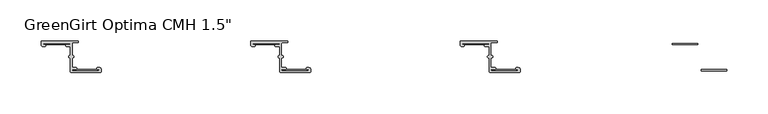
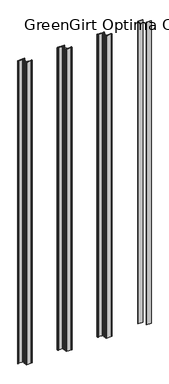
"""IFC4 building model written with IfcOpenShell, lengths in millimetres: fastener geometry."""

from ifc_helpers import new_model, si_unit, frame, origin, origin_with_axes, place, context, project, spatial, polyline, circle_curve, outline, extrude, source, transform, mapped, element, save
from ifc_brep_helpers import plane_surface, cylinder_surface, revolved_surface, advanced_brep


def fastener_aac90bd3(model_context):
    return source(origin(), model_context, "Body", "SolidModel", [
        extrude(outline(polyline([(1101.09, -2.794), (1101.09, -4.5212), (1070.102, -4.5212), (1070.102, -2.794), (1101.09, -2.794)])), origin_with_axes(), (0.0, 0.0, 1.0), 2032.0),
        extrude(outline(polyline([(1136.269, -34.4677766), (1136.269, -36.1949766), (1105.281, -36.1949766), (1105.281, -34.4677766), (1136.269, -34.4677766)])), origin_with_axes(), (0.0, 0.0, 1.0), 2032.0),
        advanced_brep(
        [(816.102, -2.794, 2032.0), (847.471, -2.794, 2032.0), (847.471, -4.5212, 2032.0), (843.28, -4.5212, 2032.0), (843.28, -6.5532, 2032.0), (847.471, -6.5532, 2032.0), (848.233, -7.3152, 2032.0), (848.233, -17.7601563, 2032.0), (847.3845567, -17.7601563, 2032.0), (847.3845567, -20.4288947, 2032.0), (848.233, -20.4288947, 2032.0), (848.233, -37.3379766, 2032.0), (848.995, -38.0999766, 2032.0), (884.8513242, -38.1, 2032.0), (885.571, -37.3379766, 2032.0), (885.571, -34.4677766, 2032.0), (883.539, -32.4357766, 2032.0), (881.253, -32.4357766, 2032.0), (881.253, -34.4677766, 2032.0), (882.269, -34.4677766, 2032.0), (882.269, -36.1949766, 2032.0), (850.9, -36.1949766, 2032.0), (850.9, -34.4677766, 2032.0), (855.091, -34.4677766, 2032.0), (855.091, -32.4357766, 2032.0), (850.9, -32.4357766, 2032.0), (850.138, -31.6737766, 2032.0), (850.138, -20.4279799, 2032.0), (850.9869007, -20.4279799, 2032.0), (850.9869007, -17.7601563, 2032.0), (850.138, -17.7601563, 2032.0), (850.138, -2.667, 2032.0), (850.9, -1.905, 2032.0), (856.996, -1.905, 2032.0), (856.996, 0.0, 2032.0), (813.562, 0.0, 2032.0), (812.8, -0.762, 2032.0), (812.8, -4.5212, 2032.0), (814.832, -6.5532, 2032.0), (817.118, -6.5532, 2032.0), (817.118, -4.5212, 2032.0), (816.102, -4.5212, 2032.0), (816.102, -2.794, 0.0), (816.102, -4.5212, 0.0), (817.118, -4.5212, 0.0), (817.118, -6.5532, 0.0), (814.832, -6.5532, 0.0), (812.8, -4.5212, 0.0), (812.8, -0.762, 0.0), (813.562, 0.0, 0.0), (856.996, 0.0, 0.0), (856.996, -1.905, 0.0), (850.9, -1.905, 0.0), (850.138, -2.667, 0.0), (850.138, -17.7601563, 0.0), (850.9869007, -17.7601563, 0.0), (850.9869007, -20.4279799, 0.0), (850.138, -20.4279799, 0.0), (850.138, -31.6737766, 0.0), (850.9, -32.4357766, 0.0), (855.091, -32.4357766, 0.0), (855.091, -34.4677766, 0.0), (850.9, -34.4677766, 0.0), (850.9, -36.1949766, 0.0), (882.269, -36.1949766, 0.0), (882.269, -34.4677766, 0.0), (881.253, -34.4677766, 0.0), (881.253, -32.4357766, 0.0), (883.539, -32.4357766, 0.0), (885.571, -34.4677766, 0.0), (885.571, -37.3379766, 0.0), (884.809, -38.0999766, 0.0), (848.9676774, -38.1, 0.0), (848.233, -37.3379766, 0.0), (848.233, -20.4288947, 0.0), (847.3845567, -20.4288947, 0.0), (847.3845567, -17.7601563, 0.0), (848.233, -17.7601563, 0.0), (848.233, -7.3152, 0.0), (847.471, -6.5532, 0.0), (843.28, -6.5532, 0.0), (843.28, -4.5212, 0.0), (847.471, -4.5212, 0.0), (847.471, -2.794, 0.0)],
        [
            (0, 1),
            (1, 2, circle_curve(frame((847.471, -3.6576, 2032.0), z_axis=(0.0, 0.0, -1.0), x_axis=(1.0, 0.0, 0.0)), 0.8636)),
            (2, 3),
            (3, 4, circle_curve(frame((843.28, -5.5372, 2032.0), z_axis=(0.0, 0.0, 1.0), x_axis=(1.0, 0.0, 0.0)), 1.016)),
            (4, 5),
            (5, 6, circle_curve(frame((847.471, -7.3152, 2032.0), z_axis=(0.0, 0.0, -1.0), x_axis=(1.0, 0.0, 0.0)), 0.762)),
            (6, 7),
            (7, 8),
            (8, 9, circle_curve(frame((847.3845567, -19.0945255, 2032.0), z_axis=(0.0, 0.0, 1.0), x_axis=(1.0, 0.0, 0.0)), 1.3343692)),
            (9, 10),
            (10, 11),
            (11, 12, circle_curve(frame((848.995, -37.3379766, 2032.0), z_axis=(0.0, 0.0, 1.0), x_axis=(1.0, 0.0, 0.0)), 0.762)),
            (12, 13),
            (13, 14, circle_curve(frame((884.809, -37.3379766, 2032.0), z_axis=(0.0, 0.0, 1.0), x_axis=(1.0, 0.0, 0.0)), 0.762)),
            (14, 15),
            (15, 16, circle_curve(frame((883.539, -34.4677766, 2032.0), z_axis=(0.0, 0.0, 1.0), x_axis=(1.0, 0.0, 0.0)), 2.032)),
            (16, 17),
            (17, 18, circle_curve(frame((881.253, -33.4517766, 2032.0), z_axis=(0.0, 0.0, 1.0), x_axis=(1.0, 0.0, 0.0)), 1.016)),
            (18, 19),
            (19, 20, circle_curve(frame((882.269, -35.3313766, 2032.0), z_axis=(0.0, 0.0, -1.0), x_axis=(1.0, 0.0, 0.0)), 0.8636)),
            (20, 21),
            (21, 22, circle_curve(frame((850.9, -35.3313766, 2032.0), z_axis=(0.0, 0.0, -1.0), x_axis=(1.0, 0.0, 0.0)), 0.8636)),
            (22, 23),
            (23, 24, circle_curve(frame((855.091, -33.4517766, 2032.0), z_axis=(0.0, 0.0, 1.0), x_axis=(1.0, 0.0, 0.0)), 1.016)),
            (24, 25),
            (25, 26, circle_curve(frame((850.9, -31.6737766, 2032.0), z_axis=(0.0, 0.0, -1.0), x_axis=(1.0, 0.0, 0.0)), 0.762)),
            (26, 27),
            (27, 28),
            (28, 29, circle_curve(frame((850.9869007, -19.0940681, 2032.0), z_axis=(0.0, 0.0, 1.0), x_axis=(1.0, 0.0, 0.0)), 1.3339118)),
            (29, 30),
            (30, 31),
            (31, 32, circle_curve(frame((850.9, -2.667, 2032.0), z_axis=(0.0, 0.0, -1.0), x_axis=(1.0, 0.0, 0.0)), 0.762)),
            (32, 33),
            (33, 34, circle_curve(frame((856.996, -0.9525, 2032.0), z_axis=(0.0, 0.0, 1.0), x_axis=(1.0, 0.0, 0.0)), 0.9525)),
            (34, 35),
            (35, 36, circle_curve(frame((813.562, -0.762, 2032.0), z_axis=(0.0, 0.0, 1.0), x_axis=(1.0, 0.0, 0.0)), 0.762)),
            (36, 37),
            (37, 38, circle_curve(frame((814.832, -4.5212, 2032.0), z_axis=(0.0, 0.0, 1.0), x_axis=(1.0, 0.0, 0.0)), 2.032)),
            (38, 39),
            (39, 40, circle_curve(frame((817.118, -5.5372, 2032.0), z_axis=(0.0, 0.0, 1.0), x_axis=(1.0, 0.0, 0.0)), 1.016)),
            (40, 41),
            (41, 0, circle_curve(frame((816.102, -3.6576, 2032.0), z_axis=(0.0, 0.0, -1.0), x_axis=(1.0, 0.0, 0.0)), 0.8636)),
            (42, 43, circle_curve(frame((816.102, -3.6576, 0.0), z_axis=(0.0, 0.0, 1.0), x_axis=(1.0, 0.0, 0.0)), 0.8636)),
            (43, 44),
            (44, 45, circle_curve(frame((817.118, -5.5372, 0.0), z_axis=(0.0, 0.0, -1.0), x_axis=(1.0, 0.0, 0.0)), 1.016)),
            (45, 46),
            (46, 47, circle_curve(frame((814.832, -4.5212, 0.0), z_axis=(0.0, 0.0, -1.0), x_axis=(1.0, 0.0, 0.0)), 2.032)),
            (47, 48),
            (48, 49, circle_curve(frame((813.562, -0.762, 0.0), z_axis=(0.0, 0.0, -1.0), x_axis=(1.0, 0.0, 0.0)), 0.762)),
            (49, 50),
            (50, 51, circle_curve(frame((856.996, -0.9525, 0.0), z_axis=(0.0, 0.0, -1.0), x_axis=(1.0, 0.0, 0.0)), 0.9525)),
            (51, 52),
            (52, 53, circle_curve(frame((850.9, -2.667, 0.0), z_axis=(0.0, 0.0, 1.0), x_axis=(1.0, 0.0, 0.0)), 0.762)),
            (53, 54),
            (54, 55),
            (55, 56, circle_curve(frame((850.9869007, -19.0940681, 0.0), z_axis=(0.0, 0.0, -1.0), x_axis=(1.0, 0.0, 0.0)), 1.3339118)),
            (56, 57),
            (57, 58),
            (58, 59, circle_curve(frame((850.9, -31.6737766, 0.0), z_axis=(0.0, 0.0, 1.0), x_axis=(1.0, 0.0, 0.0)), 0.762)),
            (59, 60),
            (60, 61, circle_curve(frame((855.091, -33.4517766, 0.0), z_axis=(0.0, 0.0, -1.0), x_axis=(1.0, 0.0, 0.0)), 1.016)),
            (61, 62),
            (62, 63, circle_curve(frame((850.9, -35.3313766, 0.0), z_axis=(0.0, 0.0, 1.0), x_axis=(1.0, 0.0, 0.0)), 0.8636)),
            (63, 64),
            (64, 65, circle_curve(frame((882.269, -35.3313766, 0.0), z_axis=(0.0, 0.0, 1.0), x_axis=(1.0, 0.0, 0.0)), 0.8636)),
            (65, 66),
            (66, 67, circle_curve(frame((881.253, -33.4517766, 0.0), z_axis=(0.0, 0.0, -1.0), x_axis=(1.0, 0.0, 0.0)), 1.016)),
            (67, 68),
            (68, 69, circle_curve(frame((883.539, -34.4677766, 0.0), z_axis=(0.0, 0.0, -1.0), x_axis=(1.0, 0.0, 0.0)), 2.032)),
            (69, 70),
            (70, 71, circle_curve(frame((884.809, -37.3379766, 0.0), z_axis=(0.0, 0.0, -1.0), x_axis=(1.0, 0.0, 0.0)), 0.762)),
            (71, 72),
            (72, 73, circle_curve(frame((848.995, -37.3379766, 0.0), z_axis=(0.0, 0.0, -1.0), x_axis=(1.0, 0.0, 0.0)), 0.762)),
            (73, 74),
            (74, 75),
            (75, 76, circle_curve(frame((847.3845567, -19.0945255, 0.0), z_axis=(0.0, 0.0, -1.0), x_axis=(1.0, 0.0, 0.0)), 1.3343692)),
            (76, 77),
            (77, 78),
            (78, 79, circle_curve(frame((847.471, -7.3152, 0.0), z_axis=(0.0, 0.0, 1.0), x_axis=(1.0, 0.0, 0.0)), 0.762)),
            (79, 80),
            (80, 81, circle_curve(frame((843.28, -5.5372, 0.0), z_axis=(0.0, 0.0, -1.0), x_axis=(1.0, 0.0, 0.0)), 1.016)),
            (81, 82),
            (82, 83, circle_curve(frame((847.471, -3.6576, 0.0), z_axis=(0.0, 0.0, 1.0), x_axis=(1.0, 0.0, 0.0)), 0.8636)),
            (83, 42),
            (0, 42),
            (83, 1),
            (82, 2),
            (81, 3),
            (80, 4),
            (79, 5),
            (78, 6),
            (77, 7),
            (76, 8),
            (75, 9),
            (74, 10),
            (73, 11),
            (72, 12),
            (71, 13),
            (70, 14),
            (69, 15),
            (68, 16),
            (67, 17),
            (66, 18),
            (65, 19),
            (64, 20),
            (63, 21),
            (62, 22),
            (61, 23),
            (60, 24),
            (59, 25),
            (58, 26),
            (57, 27),
            (56, 28),
            (55, 29),
            (54, 30),
            (53, 31),
            (52, 32),
            (51, 33),
            (50, 34),
            (49, 35),
            (48, 36),
            (47, 37),
            (46, 38),
            (45, 39),
            (44, 40),
            (43, 41),
        ],
        [
            plane_surface(frame((847.471, -2.794, 2032.0), z_axis=(0.0, 0.0, 1.0), x_axis=(1.0, 0.0, 0.0))),
            plane_surface(frame((847.471, -2.794, 0.0), z_axis=(0.0, 0.0, -1.0), x_axis=(-1.0, 0.0, 0.0))),
            plane_surface(frame((816.102, -2.794, 2032.0), z_axis=(0.0, -1.0, 0.0), x_axis=(0.0, 0.0, -1.0))),
            revolved_surface(polyline([(848.3346, -3.6576, 0.0), (848.3346, -3.6576, 2032.0)]), (847.471, -3.6576, 0.0), (0.0, 0.0, -1.0)),
            plane_surface(frame((847.471, -4.5212, 2032.0), z_axis=(0.0, 1.0, 0.0), x_axis=(0.0, 0.0, -1.0))),
            cylinder_surface(frame((843.28, -5.5372, 0.0), z_axis=(0.0, 0.0, 1.0), x_axis=(1.0, 0.0, 0.0)), 1.016),
            plane_surface(frame((843.28, -6.5532, 2032.0), z_axis=(0.0, -1.0, 0.0), x_axis=(0.0, 0.0, -1.0))),
            revolved_surface(polyline([(848.233, -7.3152, 0.0), (848.233, -7.3152, 2032.0)]), (847.471, -7.3152, 0.0), (0.0, 0.0, -1.0)),
            plane_surface(frame((848.233, -7.3152, 2032.0), z_axis=(-1.0, 0.0, 0.0), x_axis=(0.0, 0.0, -1.0))),
            plane_surface(frame((848.233, -17.7601563, 2032.0), z_axis=(0.0, 1.0, 0.0), x_axis=(0.0, 0.0, -1.0))),
            cylinder_surface(frame((847.3845567, -19.0945255, 0.0), z_axis=(0.0, 0.0, 1.0), x_axis=(1.0, 0.0, 0.0)), 1.3343692),
            plane_surface(frame((847.3845567, -20.4288947, 2032.0), z_axis=(0.0, -1.0, 0.0), x_axis=(0.0, 0.0, -1.0))),
            plane_surface(frame((848.233, -20.4288947, 2032.0), z_axis=(-1.0, 0.0, 0.0), x_axis=(0.0, 0.0, -1.0))),
            cylinder_surface(frame((848.995, -37.3379766, 0.0), z_axis=(0.0, 0.0, 1.0), x_axis=(1.0, 0.0, 0.0)), 0.762),
            plane_surface(frame((848.9676774, -38.1, 2032.0), z_axis=(0.0, -1.0, 0.0), x_axis=(0.0, 0.0, -1.0))),
            cylinder_surface(frame((884.809, -37.3379766, 0.0), z_axis=(0.0, 0.0, 1.0), x_axis=(1.0, 0.0, 0.0)), 0.762),
            plane_surface(frame((885.571, -37.3379766, 2032.0), z_axis=(1.0, 1.3794275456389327e-12, 0.0), x_axis=(0.0, 0.0, -1.0))),
            cylinder_surface(frame((883.539, -34.4677766, 0.0), z_axis=(0.0, 0.0, 1.0), x_axis=(1.0, 0.0, 0.0)), 2.032),
            plane_surface(frame((883.539, -32.4357766, 2032.0), z_axis=(0.0, 1.0, 0.0), x_axis=(0.0, 0.0, -1.0))),
            cylinder_surface(frame((881.253, -33.4517766, 0.0), z_axis=(0.0, 0.0, 1.0), x_axis=(1.0, 0.0, 0.0)), 1.016),
            plane_surface(frame((881.253, -34.4677766, 2032.0), z_axis=(0.0, -1.0, 0.0), x_axis=(0.0, 0.0, -1.0))),
            revolved_surface(polyline([(883.1326, -35.3313766, 0.0), (883.1326, -35.3313766, 2032.0)]), (882.269, -35.3313766, 0.0), (0.0, 0.0, -1.0)),
            plane_surface(frame((882.269, -36.1949766, 2032.0), z_axis=(0.0, 1.0, 0.0), x_axis=(0.0, 0.0, -1.0))),
            revolved_surface(polyline([(851.7636, -35.3313766, 0.0), (851.7636, -35.3313766, 2032.0)]), (850.9, -35.3313766, 0.0), (0.0, 0.0, -1.0)),
            plane_surface(frame((850.9, -34.4677766, 2032.0), z_axis=(0.0, -1.0, 0.0), x_axis=(0.0, 0.0, -1.0))),
            cylinder_surface(frame((855.091, -33.4517766, 0.0), z_axis=(0.0, 0.0, 1.0), x_axis=(1.0, 0.0, 0.0)), 1.016),
            plane_surface(frame((855.091, -32.4357766, 2032.0), z_axis=(0.0, 1.0, 0.0), x_axis=(0.0, 0.0, -1.0))),
            revolved_surface(polyline([(851.6619999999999, -31.6737766, 0.0), (851.6619999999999, -31.6737766, 2032.0)]), (850.9, -31.6737766, 0.0), (0.0, 0.0, -1.0)),
            plane_surface(frame((850.138, -31.6737766, 2032.0), z_axis=(1.0, 0.0, 0.0), x_axis=(0.0, 0.0, -1.0))),
            plane_surface(frame((850.138, -20.4279799, 2032.0), z_axis=(0.0, -1.0, 0.0), x_axis=(0.0, 0.0, -1.0))),
            cylinder_surface(frame((850.9869007, -19.0940681, 0.0), z_axis=(0.0, 0.0, 1.0), x_axis=(1.0, 0.0, 0.0)), 1.3339118),
            plane_surface(frame((850.9869007, -17.7601563, 2032.0), z_axis=(0.0, 1.0, 0.0), x_axis=(0.0, 0.0, -1.0))),
            plane_surface(frame((850.138, -17.7601563, 2032.0), z_axis=(1.0, 0.0, 0.0), x_axis=(0.0, 0.0, -1.0))),
            revolved_surface(polyline([(851.6619999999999, -2.667, 0.0), (851.6619999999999, -2.667, 2032.0)]), (850.9, -2.667, 0.0), (0.0, 0.0, -1.0)),
            plane_surface(frame((850.9, -1.905, 2032.0), z_axis=(0.0, -1.0, 0.0), x_axis=(0.0, 0.0, -1.0))),
            cylinder_surface(frame((856.996, -0.9525, 0.0), z_axis=(0.0, 0.0, 1.0), x_axis=(1.0, 0.0, 0.0)), 0.9525),
            plane_surface(frame((856.996, 0.0, 2032.0), z_axis=(0.0, 1.0, 0.0), x_axis=(0.0, 0.0, -1.0))),
            cylinder_surface(frame((813.562, -0.762, 0.0), z_axis=(0.0, 0.0, 1.0), x_axis=(1.0, 0.0, 0.0)), 0.762),
            plane_surface(frame((812.8, -0.762, 2032.0), z_axis=(-1.0, 2.681638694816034e-11, 0.0), x_axis=(0.0, 0.0, -1.0))),
            cylinder_surface(frame((814.832, -4.5212, 0.0), z_axis=(0.0, 0.0, 1.0), x_axis=(1.0, 0.0, 0.0)), 2.032),
            plane_surface(frame((814.832, -6.5532, 2032.0), z_axis=(0.0, -1.0, 0.0), x_axis=(0.0, 0.0, -1.0))),
            cylinder_surface(frame((817.118, -5.5372, 0.0), z_axis=(0.0, 0.0, 1.0), x_axis=(1.0, 0.0, 0.0)), 1.016),
            plane_surface(frame((817.118, -4.5212, 2032.0), z_axis=(0.0, 1.0, 0.0), x_axis=(0.0, 0.0, -1.0))),
            revolved_surface(polyline([(816.9656, -3.6576, 0.0), (816.9656, -3.6576, 2032.0)]), (816.102, -3.6576, 0.0), (0.0, 0.0, -1.0)),
        ],
        [
            (0, [[1, 2, 3, 4, 5, 6, 7, 8, 9, 10, 11, 12, 13, 14, 15, 16, 17, 18, 19, 20, 21, 22, 23, 24, 25, 26, 27, 28, 29, 30, 31, 32, 33, 34, 35, 36, 37, 38, 39, 40, 41, 42]]),
            (1, [[43, 44, 45, 46, 47, 48, 49, 50, 51, 52, 53, 54, 55, 56, 57, 58, 59, 60, 61, 62, 63, 64, 65, 66, 67, 68, 69, 70, 71, 72, 73, 74, 75, 76, 77, 78, 79, 80, 81, 82, 83, 84]]),
            (2, [[-1, 85, -84, 86]]),
            (3, [[-2, -86, -83, 87]]),
            (4, [[-3, -87, -82, 88]]),
            (5, [[-4, -88, -81, 89]]),
            (6, [[-5, -89, -80, 90]]),
            (7, [[-6, -90, -79, 91]]),
            (8, [[-7, -91, -78, 92]]),
            (9, [[-8, -92, -77, 93]]),
            (10, [[-9, -93, -76, 94]]),
            (11, [[-10, -94, -75, 95]]),
            (12, [[-11, -95, -74, 96]]),
            (13, [[-12, -96, -73, 97]]),
            (14, [[-13, -97, -72, 98]]),
            (15, [[-14, -98, -71, 99]]),
            (16, [[-15, -99, -70, 100]]),
            (17, [[-16, -100, -69, 101]]),
            (18, [[-17, -101, -68, 102]]),
            (19, [[-18, -102, -67, 103]]),
            (20, [[-19, -103, -66, 104]]),
            (21, [[-20, -104, -65, 105]]),
            (22, [[-21, -105, -64, 106]]),
            (23, [[-22, -106, -63, 107]]),
            (24, [[-23, -107, -62, 108]]),
            (25, [[-24, -108, -61, 109]]),
            (26, [[-25, -109, -60, 110]]),
            (27, [[-26, -110, -59, 111]]),
            (28, [[-27, -111, -58, 112]]),
            (29, [[-28, -112, -57, 113]]),
            (30, [[-29, -113, -56, 114]]),
            (31, [[-30, -114, -55, 115]]),
            (32, [[-31, -115, -54, 116]]),
            (33, [[-32, -116, -53, 117]]),
            (34, [[-33, -117, -52, 118]]),
            (35, [[-34, -118, -51, 119]]),
            (36, [[-35, -119, -50, 120]]),
            (37, [[-36, -120, -49, 121]]),
            (38, [[-37, -121, -48, 122]]),
            (39, [[-38, -122, -47, 123]]),
            (40, [[-39, -123, -46, 124]]),
            (41, [[-40, -124, -45, 125]]),
            (42, [[-41, -125, -44, 126]]),
            (43, [[-42, -126, -43, -85]]),
        ],
    ),
        extrude(outline(polyline([(847.09, -2.794), (847.09, -4.5212), (816.102, -4.5212), (816.102, -2.794), (847.09, -2.794)])), origin_with_axes(), (0.0, 0.0, 1.0), 2032.0),
        extrude(outline(polyline([(882.269, -34.4677766), (882.269, -36.1949766), (851.281, -36.1949766), (851.281, -34.4677766), (882.269, -34.4677766)])), origin_with_axes(), (0.0, 0.0, 1.0), 2032.0),
        advanced_brep(
        [(562.102, -2.794, 2032.0), (593.471, -2.794, 2032.0), (593.471, -4.5212, 2032.0), (589.28, -4.5212, 2032.0), (589.28, -6.5532, 2032.0), (593.471, -6.5532, 2032.0), (594.233, -7.3152, 2032.0), (594.233, -17.7601563, 2032.0), (593.3845567, -17.7601563, 2032.0), (593.3845567, -20.4288947, 2032.0), (594.233, -20.4288947, 2032.0), (594.233, -37.3379766, 2032.0), (594.995, -38.0999766, 2032.0), (630.8513242, -38.1, 2032.0), (631.571, -37.3379766, 2032.0), (631.571, -34.4677766, 2032.0), (629.539, -32.4357766, 2032.0), (627.253, -32.4357766, 2032.0), (627.253, -34.4677766, 2032.0), (628.269, -34.4677766, 2032.0), (628.269, -36.1949766, 2032.0), (596.9, -36.1949766, 2032.0), (596.9, -34.4677766, 2032.0), (601.091, -34.4677766, 2032.0), (601.091, -32.4357766, 2032.0), (596.9, -32.4357766, 2032.0), (596.138, -31.6737766, 2032.0), (596.138, -20.4279799, 2032.0), (596.9869007, -20.4279799, 2032.0), (596.9869007, -17.7601563, 2032.0), (596.138, -17.7601563, 2032.0), (596.138, -2.667, 2032.0), (596.9, -1.905, 2032.0), (602.996, -1.905, 2032.0), (602.996, 0.0, 2032.0), (559.562, 0.0, 2032.0), (558.8, -0.762, 2032.0), (558.8, -4.5212, 2032.0), (560.832, -6.5532, 2032.0), (563.118, -6.5532, 2032.0), (563.118, -4.5212, 2032.0), (562.102, -4.5212, 2032.0), (562.102, -2.794, 0.0), (562.102, -4.5212, 0.0), (563.118, -4.5212, 0.0), (563.118, -6.5532, 0.0), (560.832, -6.5532, 0.0), (558.8, -4.5212, 0.0), (558.8, -0.762, 0.0), (559.562, 0.0, 0.0), (602.996, 0.0, 0.0), (602.996, -1.905, 0.0), (596.9, -1.905, 0.0), (596.138, -2.667, 0.0), (596.138, -17.7601563, 0.0), (596.9869007, -17.7601563, 0.0), (596.9869007, -20.4279799, 0.0), (596.138, -20.4279799, 0.0), (596.138, -31.6737766, 0.0), (596.9, -32.4357766, 0.0), (601.091, -32.4357766, 0.0), (601.091, -34.4677766, 0.0), (596.9, -34.4677766, 0.0), (596.9, -36.1949766, 0.0), (628.269, -36.1949766, 0.0), (628.269, -34.4677766, 0.0), (627.253, -34.4677766, 0.0), (627.253, -32.4357766, 0.0), (629.539, -32.4357766, 0.0), (631.571, -34.4677766, 0.0), (631.571, -37.3379766, 0.0), (630.809, -38.0999766, 0.0), (594.9676774, -38.1, 0.0), (594.233, -37.3379766, 0.0), (594.233, -20.4288947, 0.0), (593.3845567, -20.4288947, 0.0), (593.3845567, -17.7601563, 0.0), (594.233, -17.7601563, 0.0), (594.233, -7.3152, 0.0), (593.471, -6.5532, 0.0), (589.28, -6.5532, 0.0), (589.28, -4.5212, 0.0), (593.471, -4.5212, 0.0), (593.471, -2.794, 0.0)],
        [
            (0, 1),
            (1, 2, circle_curve(frame((593.471, -3.6576, 2032.0), z_axis=(0.0, 0.0, -1.0), x_axis=(1.0, 0.0, 0.0)), 0.8636)),
            (2, 3),
            (3, 4, circle_curve(frame((589.28, -5.5372, 2032.0), z_axis=(0.0, 0.0, 1.0), x_axis=(1.0, 0.0, 0.0)), 1.016)),
            (4, 5),
            (5, 6, circle_curve(frame((593.471, -7.3152, 2032.0), z_axis=(0.0, 0.0, -1.0), x_axis=(1.0, 0.0, 0.0)), 0.762)),
            (6, 7),
            (7, 8),
            (8, 9, circle_curve(frame((593.3845567, -19.0945255, 2032.0), z_axis=(0.0, 0.0, 1.0), x_axis=(1.0, 0.0, 0.0)), 1.3343692)),
            (9, 10),
            (10, 11),
            (11, 12, circle_curve(frame((594.995, -37.3379766, 2032.0), z_axis=(0.0, 0.0, 1.0), x_axis=(1.0, 0.0, 0.0)), 0.762)),
            (12, 13),
            (13, 14, circle_curve(frame((630.809, -37.3379766, 2032.0), z_axis=(0.0, 0.0, 1.0), x_axis=(1.0, 0.0, 0.0)), 0.762)),
            (14, 15),
            (15, 16, circle_curve(frame((629.539, -34.4677766, 2032.0), z_axis=(0.0, 0.0, 1.0), x_axis=(1.0, 0.0, 0.0)), 2.032)),
            (16, 17),
            (17, 18, circle_curve(frame((627.253, -33.4517766, 2032.0), z_axis=(0.0, 0.0, 1.0), x_axis=(1.0, 0.0, 0.0)), 1.016)),
            (18, 19),
            (19, 20, circle_curve(frame((628.269, -35.3313766, 2032.0), z_axis=(0.0, 0.0, -1.0), x_axis=(1.0, 0.0, 0.0)), 0.8636)),
            (20, 21),
            (21, 22, circle_curve(frame((596.9, -35.3313766, 2032.0), z_axis=(0.0, 0.0, -1.0), x_axis=(1.0, 0.0, 0.0)), 0.8636)),
            (22, 23),
            (23, 24, circle_curve(frame((601.091, -33.4517766, 2032.0), z_axis=(0.0, 0.0, 1.0), x_axis=(1.0, 0.0, 0.0)), 1.016)),
            (24, 25),
            (25, 26, circle_curve(frame((596.9, -31.6737766, 2032.0), z_axis=(0.0, 0.0, -1.0), x_axis=(1.0, 0.0, 0.0)), 0.762)),
            (26, 27),
            (27, 28),
            (28, 29, circle_curve(frame((596.9869007, -19.0940681, 2032.0), z_axis=(0.0, 0.0, 1.0), x_axis=(1.0, 0.0, 0.0)), 1.3339118)),
            (29, 30),
            (30, 31),
            (31, 32, circle_curve(frame((596.9, -2.667, 2032.0), z_axis=(0.0, 0.0, -1.0), x_axis=(1.0, 0.0, 0.0)), 0.762)),
            (32, 33),
            (33, 34, circle_curve(frame((602.996, -0.9525, 2032.0), z_axis=(0.0, 0.0, 1.0), x_axis=(1.0, 0.0, 0.0)), 0.9525)),
            (34, 35),
            (35, 36, circle_curve(frame((559.562, -0.762, 2032.0), z_axis=(0.0, 0.0, 1.0), x_axis=(1.0, 0.0, 0.0)), 0.762)),
            (36, 37),
            (37, 38, circle_curve(frame((560.832, -4.5212, 2032.0), z_axis=(0.0, 0.0, 1.0), x_axis=(1.0, 0.0, 0.0)), 2.032)),
            (38, 39),
            (39, 40, circle_curve(frame((563.118, -5.5372, 2032.0), z_axis=(0.0, 0.0, 1.0), x_axis=(1.0, 0.0, 0.0)), 1.016)),
            (40, 41),
            (41, 0, circle_curve(frame((562.102, -3.6576, 2032.0), z_axis=(0.0, 0.0, -1.0), x_axis=(1.0, 0.0, 0.0)), 0.8636)),
            (42, 43, circle_curve(frame((562.102, -3.6576, 0.0), z_axis=(0.0, 0.0, 1.0), x_axis=(1.0, 0.0, 0.0)), 0.8636)),
            (43, 44),
            (44, 45, circle_curve(frame((563.118, -5.5372, 0.0), z_axis=(0.0, 0.0, -1.0), x_axis=(1.0, 0.0, 0.0)), 1.016)),
            (45, 46),
            (46, 47, circle_curve(frame((560.832, -4.5212, 0.0), z_axis=(0.0, 0.0, -1.0), x_axis=(1.0, 0.0, 0.0)), 2.032)),
            (47, 48),
            (48, 49, circle_curve(frame((559.562, -0.762, 0.0), z_axis=(0.0, 0.0, -1.0), x_axis=(1.0, 0.0, 0.0)), 0.762)),
            (49, 50),
            (50, 51, circle_curve(frame((602.996, -0.9525, 0.0), z_axis=(0.0, 0.0, -1.0), x_axis=(1.0, 0.0, 0.0)), 0.9525)),
            (51, 52),
            (52, 53, circle_curve(frame((596.9, -2.667, 0.0), z_axis=(0.0, 0.0, 1.0), x_axis=(1.0, 0.0, 0.0)), 0.762)),
            (53, 54),
            (54, 55),
            (55, 56, circle_curve(frame((596.9869007, -19.0940681, 0.0), z_axis=(0.0, 0.0, -1.0), x_axis=(1.0, 0.0, 0.0)), 1.3339118)),
            (56, 57),
            (57, 58),
            (58, 59, circle_curve(frame((596.9, -31.6737766, 0.0), z_axis=(0.0, 0.0, 1.0), x_axis=(1.0, 0.0, 0.0)), 0.762)),
            (59, 60),
            (60, 61, circle_curve(frame((601.091, -33.4517766, 0.0), z_axis=(0.0, 0.0, -1.0), x_axis=(1.0, 0.0, 0.0)), 1.016)),
            (61, 62),
            (62, 63, circle_curve(frame((596.9, -35.3313766, 0.0), z_axis=(0.0, 0.0, 1.0), x_axis=(1.0, 0.0, 0.0)), 0.8636)),
            (63, 64),
            (64, 65, circle_curve(frame((628.269, -35.3313766, 0.0), z_axis=(0.0, 0.0, 1.0), x_axis=(1.0, 0.0, 0.0)), 0.8636)),
            (65, 66),
            (66, 67, circle_curve(frame((627.253, -33.4517766, 0.0), z_axis=(0.0, 0.0, -1.0), x_axis=(1.0, 0.0, 0.0)), 1.016)),
            (67, 68),
            (68, 69, circle_curve(frame((629.539, -34.4677766, 0.0), z_axis=(0.0, 0.0, -1.0), x_axis=(1.0, 0.0, 0.0)), 2.032)),
            (69, 70),
            (70, 71, circle_curve(frame((630.809, -37.3379766, 0.0), z_axis=(0.0, 0.0, -1.0), x_axis=(1.0, 0.0, 0.0)), 0.762)),
            (71, 72),
            (72, 73, circle_curve(frame((594.995, -37.3379766, 0.0), z_axis=(0.0, 0.0, -1.0), x_axis=(1.0, 0.0, 0.0)), 0.762)),
            (73, 74),
            (74, 75),
            (75, 76, circle_curve(frame((593.3845567, -19.0945255, 0.0), z_axis=(0.0, 0.0, -1.0), x_axis=(1.0, 0.0, 0.0)), 1.3343692)),
            (76, 77),
            (77, 78),
            (78, 79, circle_curve(frame((593.471, -7.3152, 0.0), z_axis=(0.0, 0.0, 1.0), x_axis=(1.0, 0.0, 0.0)), 0.762)),
            (79, 80),
            (80, 81, circle_curve(frame((589.28, -5.5372, 0.0), z_axis=(0.0, 0.0, -1.0), x_axis=(1.0, 0.0, 0.0)), 1.016)),
            (81, 82),
            (82, 83, circle_curve(frame((593.471, -3.6576, 0.0), z_axis=(0.0, 0.0, 1.0), x_axis=(1.0, 0.0, 0.0)), 0.8636)),
            (83, 42),
            (0, 42),
            (83, 1),
            (82, 2),
            (81, 3),
            (80, 4),
            (79, 5),
            (78, 6),
            (77, 7),
            (76, 8),
            (75, 9),
            (74, 10),
            (73, 11),
            (72, 12),
            (71, 13),
            (70, 14),
            (69, 15),
            (68, 16),
            (67, 17),
            (66, 18),
            (65, 19),
            (64, 20),
            (63, 21),
            (62, 22),
            (61, 23),
            (60, 24),
            (59, 25),
            (58, 26),
            (57, 27),
            (56, 28),
            (55, 29),
            (54, 30),
            (53, 31),
            (52, 32),
            (51, 33),
            (50, 34),
            (49, 35),
            (48, 36),
            (47, 37),
            (46, 38),
            (45, 39),
            (44, 40),
            (43, 41),
        ],
        [
            plane_surface(frame((593.471, -2.794, 2032.0), z_axis=(0.0, 0.0, 1.0), x_axis=(1.0, 0.0, 0.0))),
            plane_surface(frame((593.471, -2.794, 0.0), z_axis=(0.0, 0.0, -1.0), x_axis=(-1.0, 0.0, 0.0))),
            plane_surface(frame((562.102, -2.794, 2032.0), z_axis=(0.0, -1.0, 0.0), x_axis=(0.0, 0.0, -1.0))),
            revolved_surface(polyline([(594.3346, -3.6576, 0.0), (594.3346, -3.6576, 2032.0)]), (593.471, -3.6576, 0.0), (0.0, 0.0, -1.0)),
            plane_surface(frame((593.471, -4.5212, 2032.0), z_axis=(0.0, 1.0, 0.0), x_axis=(0.0, 0.0, -1.0))),
            cylinder_surface(frame((589.28, -5.5372, 0.0), z_axis=(0.0, 0.0, 1.0), x_axis=(1.0, 0.0, 0.0)), 1.016),
            plane_surface(frame((589.28, -6.5532, 2032.0), z_axis=(0.0, -1.0, 0.0), x_axis=(0.0, 0.0, -1.0))),
            revolved_surface(polyline([(594.233, -7.3152, 0.0), (594.233, -7.3152, 2032.0)]), (593.471, -7.3152, 0.0), (0.0, 0.0, -1.0)),
            plane_surface(frame((594.233, -7.3152, 2032.0), z_axis=(-1.0, 0.0, 0.0), x_axis=(0.0, 0.0, -1.0))),
            plane_surface(frame((594.233, -17.7601563, 2032.0), z_axis=(0.0, 1.0, 0.0), x_axis=(0.0, 0.0, -1.0))),
            cylinder_surface(frame((593.3845567, -19.0945255, 0.0), z_axis=(0.0, 0.0, 1.0), x_axis=(1.0, 0.0, 0.0)), 1.3343692),
            plane_surface(frame((593.3845567, -20.4288947, 2032.0), z_axis=(0.0, -1.0, 0.0), x_axis=(0.0, 0.0, -1.0))),
            plane_surface(frame((594.233, -20.4288947, 2032.0), z_axis=(-1.0, 0.0, 0.0), x_axis=(0.0, 0.0, -1.0))),
            cylinder_surface(frame((594.995, -37.3379766, 0.0), z_axis=(0.0, 0.0, 1.0), x_axis=(1.0, 0.0, 0.0)), 0.762),
            plane_surface(frame((594.9676774, -38.1, 2032.0), z_axis=(0.0, -1.0, 0.0), x_axis=(0.0, 0.0, -1.0))),
            cylinder_surface(frame((630.809, -37.3379766, 0.0), z_axis=(0.0, 0.0, 1.0), x_axis=(1.0, 0.0, 0.0)), 0.762),
            plane_surface(frame((631.571, -37.3379766, 2032.0), z_axis=(1.0, 1.3794275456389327e-12, 0.0), x_axis=(0.0, 0.0, -1.0))),
            cylinder_surface(frame((629.539, -34.4677766, 0.0), z_axis=(0.0, 0.0, 1.0), x_axis=(1.0, 0.0, 0.0)), 2.032),
            plane_surface(frame((629.539, -32.4357766, 2032.0), z_axis=(0.0, 1.0, 0.0), x_axis=(0.0, 0.0, -1.0))),
            cylinder_surface(frame((627.253, -33.4517766, 0.0), z_axis=(0.0, 0.0, 1.0), x_axis=(1.0, 0.0, 0.0)), 1.016),
            plane_surface(frame((627.253, -34.4677766, 2032.0), z_axis=(0.0, -1.0, 0.0), x_axis=(0.0, 0.0, -1.0))),
            revolved_surface(polyline([(629.1326, -35.3313766, 0.0), (629.1326, -35.3313766, 2032.0)]), (628.269, -35.3313766, 0.0), (0.0, 0.0, -1.0)),
            plane_surface(frame((628.269, -36.1949766, 2032.0), z_axis=(0.0, 1.0, 0.0), x_axis=(0.0, 0.0, -1.0))),
            revolved_surface(polyline([(597.7636, -35.3313766, 0.0), (597.7636, -35.3313766, 2032.0)]), (596.9, -35.3313766, 0.0), (0.0, 0.0, -1.0)),
            plane_surface(frame((596.9, -34.4677766, 2032.0), z_axis=(0.0, -1.0, 0.0), x_axis=(0.0, 0.0, -1.0))),
            cylinder_surface(frame((601.091, -33.4517766, 0.0), z_axis=(0.0, 0.0, 1.0), x_axis=(1.0, 0.0, 0.0)), 1.016),
            plane_surface(frame((601.091, -32.4357766, 2032.0), z_axis=(0.0, 1.0, 0.0), x_axis=(0.0, 0.0, -1.0))),
            revolved_surface(polyline([(597.6619999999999, -31.6737766, 0.0), (597.6619999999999, -31.6737766, 2032.0)]), (596.9, -31.6737766, 0.0), (0.0, 0.0, -1.0)),
            plane_surface(frame((596.138, -31.6737766, 2032.0), z_axis=(1.0, 0.0, 0.0), x_axis=(0.0, 0.0, -1.0))),
            plane_surface(frame((596.138, -20.4279799, 2032.0), z_axis=(0.0, -1.0, 0.0), x_axis=(0.0, 0.0, -1.0))),
            cylinder_surface(frame((596.9869007, -19.0940681, 0.0), z_axis=(0.0, 0.0, 1.0), x_axis=(1.0, 0.0, 0.0)), 1.3339118),
            plane_surface(frame((596.9869007, -17.7601563, 2032.0), z_axis=(0.0, 1.0, 0.0), x_axis=(0.0, 0.0, -1.0))),
            plane_surface(frame((596.138, -17.7601563, 2032.0), z_axis=(1.0, 0.0, 0.0), x_axis=(0.0, 0.0, -1.0))),
            revolved_surface(polyline([(597.6619999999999, -2.667, 0.0), (597.6619999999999, -2.667, 2032.0)]), (596.9, -2.667, 0.0), (0.0, 0.0, -1.0)),
            plane_surface(frame((596.9, -1.905, 2032.0), z_axis=(0.0, -1.0, 0.0), x_axis=(0.0, 0.0, -1.0))),
            cylinder_surface(frame((602.996, -0.9525, 0.0), z_axis=(0.0, 0.0, 1.0), x_axis=(1.0, 0.0, 0.0)), 0.9525),
            plane_surface(frame((602.996, 0.0, 2032.0), z_axis=(0.0, 1.0, 0.0), x_axis=(0.0, 0.0, -1.0))),
            cylinder_surface(frame((559.562, -0.762, 0.0), z_axis=(0.0, 0.0, 1.0), x_axis=(1.0, 0.0, 0.0)), 0.762),
            plane_surface(frame((558.8, -0.762, 2032.0), z_axis=(-1.0, 2.681638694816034e-11, 0.0), x_axis=(0.0, 0.0, -1.0))),
            cylinder_surface(frame((560.832, -4.5212, 0.0), z_axis=(0.0, 0.0, 1.0), x_axis=(1.0, 0.0, 0.0)), 2.032),
            plane_surface(frame((560.832, -6.5532, 2032.0), z_axis=(0.0, -1.0, 0.0), x_axis=(0.0, 0.0, -1.0))),
            cylinder_surface(frame((563.118, -5.5372, 0.0), z_axis=(0.0, 0.0, 1.0), x_axis=(1.0, 0.0, 0.0)), 1.016),
            plane_surface(frame((563.118, -4.5212, 2032.0), z_axis=(0.0, 1.0, 0.0), x_axis=(0.0, 0.0, -1.0))),
            revolved_surface(polyline([(562.9656, -3.6576, 0.0), (562.9656, -3.6576, 2032.0)]), (562.102, -3.6576, 0.0), (0.0, 0.0, -1.0)),
        ],
        [
            (0, [[1, 2, 3, 4, 5, 6, 7, 8, 9, 10, 11, 12, 13, 14, 15, 16, 17, 18, 19, 20, 21, 22, 23, 24, 25, 26, 27, 28, 29, 30, 31, 32, 33, 34, 35, 36, 37, 38, 39, 40, 41, 42]]),
            (1, [[43, 44, 45, 46, 47, 48, 49, 50, 51, 52, 53, 54, 55, 56, 57, 58, 59, 60, 61, 62, 63, 64, 65, 66, 67, 68, 69, 70, 71, 72, 73, 74, 75, 76, 77, 78, 79, 80, 81, 82, 83, 84]]),
            (2, [[-1, 85, -84, 86]]),
            (3, [[-2, -86, -83, 87]]),
            (4, [[-3, -87, -82, 88]]),
            (5, [[-4, -88, -81, 89]]),
            (6, [[-5, -89, -80, 90]]),
            (7, [[-6, -90, -79, 91]]),
            (8, [[-7, -91, -78, 92]]),
            (9, [[-8, -92, -77, 93]]),
            (10, [[-9, -93, -76, 94]]),
            (11, [[-10, -94, -75, 95]]),
            (12, [[-11, -95, -74, 96]]),
            (13, [[-12, -96, -73, 97]]),
            (14, [[-13, -97, -72, 98]]),
            (15, [[-14, -98, -71, 99]]),
            (16, [[-15, -99, -70, 100]]),
            (17, [[-16, -100, -69, 101]]),
            (18, [[-17, -101, -68, 102]]),
            (19, [[-18, -102, -67, 103]]),
            (20, [[-19, -103, -66, 104]]),
            (21, [[-20, -104, -65, 105]]),
            (22, [[-21, -105, -64, 106]]),
            (23, [[-22, -106, -63, 107]]),
            (24, [[-23, -107, -62, 108]]),
            (25, [[-24, -108, -61, 109]]),
            (26, [[-25, -109, -60, 110]]),
            (27, [[-26, -110, -59, 111]]),
            (28, [[-27, -111, -58, 112]]),
            (29, [[-28, -112, -57, 113]]),
            (30, [[-29, -113, -56, 114]]),
            (31, [[-30, -114, -55, 115]]),
            (32, [[-31, -115, -54, 116]]),
            (33, [[-32, -116, -53, 117]]),
            (34, [[-33, -117, -52, 118]]),
            (35, [[-34, -118, -51, 119]]),
            (36, [[-35, -119, -50, 120]]),
            (37, [[-36, -120, -49, 121]]),
            (38, [[-37, -121, -48, 122]]),
            (39, [[-38, -122, -47, 123]]),
            (40, [[-39, -123, -46, 124]]),
            (41, [[-40, -124, -45, 125]]),
            (42, [[-41, -125, -44, 126]]),
            (43, [[-42, -126, -43, -85]]),
        ],
    ),
        extrude(outline(polyline([(593.09, -2.794), (593.09, -4.5212), (562.102, -4.5212), (562.102, -2.794), (593.09, -2.794)])), origin_with_axes(), (0.0, 0.0, 1.0), 2032.0),
        extrude(outline(polyline([(628.269, -34.4677766), (628.269, -36.1949766), (597.281, -36.1949766), (597.281, -34.4677766), (628.269, -34.4677766)])), origin_with_axes(), (0.0, 0.0, 1.0), 2032.0),
        advanced_brep(
        [(308.102, -2.794, 2032.0), (339.471, -2.794, 2032.0), (339.471, -4.5212, 2032.0), (335.28, -4.5212, 2032.0), (335.28, -6.5532, 2032.0), (339.471, -6.5532, 2032.0), (340.233, -7.3152, 2032.0), (340.233, -17.7601563, 2032.0), (339.3845567, -17.7601563, 2032.0), (339.3845567, -20.4288947, 2032.0), (340.233, -20.4288947, 2032.0), (340.233, -37.3379766, 2032.0), (340.995, -38.0999766, 2032.0), (376.8513242, -38.1, 2032.0), (377.571, -37.3379766, 2032.0), (377.571, -34.4677766, 2032.0), (375.539, -32.4357766, 2032.0), (373.253, -32.4357766, 2032.0), (373.253, -34.4677766, 2032.0), (374.269, -34.4677766, 2032.0), (374.269, -36.1949766, 2032.0), (342.9, -36.1949766, 2032.0), (342.9, -34.4677766, 2032.0), (347.091, -34.4677766, 2032.0), (347.091, -32.4357766, 2032.0), (342.9, -32.4357766, 2032.0), (342.138, -31.6737766, 2032.0), (342.138, -20.4279799, 2032.0), (342.9869007, -20.4279799, 2032.0), (342.9869007, -17.7601563, 2032.0), (342.138, -17.7601563, 2032.0), (342.138, -2.667, 2032.0), (342.9, -1.905, 2032.0), (348.996, -1.905, 2032.0), (348.996, 0.0, 2032.0), (305.562, 0.0, 2032.0), (304.8, -0.762, 2032.0), (304.8, -4.5212, 2032.0), (306.832, -6.5532, 2032.0), (309.118, -6.5532, 2032.0), (309.118, -4.5212, 2032.0), (308.102, -4.5212, 2032.0), (308.102, -2.794, 0.0), (308.102, -4.5212, 0.0), (309.118, -4.5212, 0.0), (309.118, -6.5532, 0.0), (306.832, -6.5532, 0.0), (304.8, -4.5212, 0.0), (304.8, -0.762, 0.0), (305.562, 0.0, 0.0), (348.996, 0.0, 0.0), (348.996, -1.905, 0.0), (342.9, -1.905, 0.0), (342.138, -2.667, 0.0), (342.138, -17.7601563, 0.0), (342.9869007, -17.7601563, 0.0), (342.9869007, -20.4279799, 0.0), (342.138, -20.4279799, 0.0), (342.138, -31.6737766, 0.0), (342.9, -32.4357766, 0.0), (347.091, -32.4357766, 0.0), (347.091, -34.4677766, 0.0), (342.9, -34.4677766, 0.0), (342.9, -36.1949766, 0.0), (374.269, -36.1949766, 0.0), (374.269, -34.4677766, 0.0), (373.253, -34.4677766, 0.0), (373.253, -32.4357766, 0.0), (375.539, -32.4357766, 0.0), (377.571, -34.4677766, 0.0), (377.571, -37.3379766, 0.0), (376.809, -38.0999766, 0.0), (340.9676774, -38.1, 0.0), (340.233, -37.3379766, 0.0), (340.233, -20.4288947, 0.0), (339.3845567, -20.4288947, 0.0), (339.3845567, -17.7601563, 0.0), (340.233, -17.7601563, 0.0), (340.233, -7.3152, 0.0), (339.471, -6.5532, 0.0), (335.28, -6.5532, 0.0), (335.28, -4.5212, 0.0), (339.471, -4.5212, 0.0), (339.471, -2.794, 0.0)],
        [
            (0, 1),
            (1, 2, circle_curve(frame((339.471, -3.6576, 2032.0), z_axis=(0.0, 0.0, -1.0), x_axis=(1.0, 0.0, 0.0)), 0.8636)),
            (2, 3),
            (3, 4, circle_curve(frame((335.28, -5.5372, 2032.0), z_axis=(0.0, 0.0, 1.0), x_axis=(1.0, 0.0, 0.0)), 1.016)),
            (4, 5),
            (5, 6, circle_curve(frame((339.471, -7.3152, 2032.0), z_axis=(0.0, 0.0, -1.0), x_axis=(1.0, 0.0, 0.0)), 0.762)),
            (6, 7),
            (7, 8),
            (8, 9, circle_curve(frame((339.3845567, -19.0945255, 2032.0), z_axis=(0.0, 0.0, 1.0), x_axis=(1.0, 0.0, 0.0)), 1.3343692)),
            (9, 10),
            (10, 11),
            (11, 12, circle_curve(frame((340.995, -37.3379766, 2032.0), z_axis=(0.0, 0.0, 1.0), x_axis=(1.0, 0.0, 0.0)), 0.762)),
            (12, 13),
            (13, 14, circle_curve(frame((376.809, -37.3379766, 2032.0), z_axis=(0.0, 0.0, 1.0), x_axis=(1.0, 0.0, 0.0)), 0.762)),
            (14, 15),
            (15, 16, circle_curve(frame((375.539, -34.4677766, 2032.0), z_axis=(0.0, 0.0, 1.0), x_axis=(1.0, 0.0, 0.0)), 2.032)),
            (16, 17),
            (17, 18, circle_curve(frame((373.253, -33.4517766, 2032.0), z_axis=(0.0, 0.0, 1.0), x_axis=(1.0, 0.0, 0.0)), 1.016)),
            (18, 19),
            (19, 20, circle_curve(frame((374.269, -35.3313766, 2032.0), z_axis=(0.0, 0.0, -1.0), x_axis=(1.0, 0.0, 0.0)), 0.8636)),
            (20, 21),
            (21, 22, circle_curve(frame((342.9, -35.3313766, 2032.0), z_axis=(0.0, 0.0, -1.0), x_axis=(1.0, 0.0, 0.0)), 0.8636)),
            (22, 23),
            (23, 24, circle_curve(frame((347.091, -33.4517766, 2032.0), z_axis=(0.0, 0.0, 1.0), x_axis=(1.0, 0.0, 0.0)), 1.016)),
            (24, 25),
            (25, 26, circle_curve(frame((342.9, -31.6737766, 2032.0), z_axis=(0.0, 0.0, -1.0), x_axis=(1.0, 0.0, 0.0)), 0.762)),
            (26, 27),
            (27, 28),
            (28, 29, circle_curve(frame((342.9869007, -19.0940681, 2032.0), z_axis=(0.0, 0.0, 1.0), x_axis=(1.0, 0.0, 0.0)), 1.3339118)),
            (29, 30),
            (30, 31),
            (31, 32, circle_curve(frame((342.9, -2.667, 2032.0), z_axis=(0.0, 0.0, -1.0), x_axis=(1.0, 0.0, 0.0)), 0.762)),
            (32, 33),
            (33, 34, circle_curve(frame((348.996, -0.9525, 2032.0), z_axis=(0.0, 0.0, 1.0), x_axis=(1.0, 0.0, 0.0)), 0.9525)),
            (34, 35),
            (35, 36, circle_curve(frame((305.562, -0.762, 2032.0), z_axis=(0.0, 0.0, 1.0), x_axis=(1.0, 0.0, 0.0)), 0.762)),
            (36, 37),
            (37, 38, circle_curve(frame((306.832, -4.5212, 2032.0), z_axis=(0.0, 0.0, 1.0), x_axis=(1.0, 0.0, 0.0)), 2.032)),
            (38, 39),
            (39, 40, circle_curve(frame((309.118, -5.5372, 2032.0), z_axis=(0.0, 0.0, 1.0), x_axis=(1.0, 0.0, 0.0)), 1.016)),
            (40, 41),
            (41, 0, circle_curve(frame((308.102, -3.6576, 2032.0), z_axis=(0.0, 0.0, -1.0), x_axis=(1.0, 0.0, 0.0)), 0.8636)),
            (42, 43, circle_curve(frame((308.102, -3.6576, 0.0), z_axis=(0.0, 0.0, 1.0), x_axis=(1.0, 0.0, 0.0)), 0.8636)),
            (43, 44),
            (44, 45, circle_curve(frame((309.118, -5.5372, 0.0), z_axis=(0.0, 0.0, -1.0), x_axis=(1.0, 0.0, 0.0)), 1.016)),
            (45, 46),
            (46, 47, circle_curve(frame((306.832, -4.5212, 0.0), z_axis=(0.0, 0.0, -1.0), x_axis=(1.0, 0.0, 0.0)), 2.032)),
            (47, 48),
            (48, 49, circle_curve(frame((305.562, -0.762, 0.0), z_axis=(0.0, 0.0, -1.0), x_axis=(1.0, 0.0, 0.0)), 0.762)),
            (49, 50),
            (50, 51, circle_curve(frame((348.996, -0.9525, 0.0), z_axis=(0.0, 0.0, -1.0), x_axis=(1.0, 0.0, 0.0)), 0.9525)),
            (51, 52),
            (52, 53, circle_curve(frame((342.9, -2.667, 0.0), z_axis=(0.0, 0.0, 1.0), x_axis=(1.0, 0.0, 0.0)), 0.762)),
            (53, 54),
            (54, 55),
            (55, 56, circle_curve(frame((342.9869007, -19.0940681, 0.0), z_axis=(0.0, 0.0, -1.0), x_axis=(1.0, 0.0, 0.0)), 1.3339118)),
            (56, 57),
            (57, 58),
            (58, 59, circle_curve(frame((342.9, -31.6737766, 0.0), z_axis=(0.0, 0.0, 1.0), x_axis=(1.0, 0.0, 0.0)), 0.762)),
            (59, 60),
            (60, 61, circle_curve(frame((347.091, -33.4517766, 0.0), z_axis=(0.0, 0.0, -1.0), x_axis=(1.0, 0.0, 0.0)), 1.016)),
            (61, 62),
            (62, 63, circle_curve(frame((342.9, -35.3313766, 0.0), z_axis=(0.0, 0.0, 1.0), x_axis=(1.0, 0.0, 0.0)), 0.8636)),
            (63, 64),
            (64, 65, circle_curve(frame((374.269, -35.3313766, 0.0), z_axis=(0.0, 0.0, 1.0), x_axis=(1.0, 0.0, 0.0)), 0.8636)),
            (65, 66),
            (66, 67, circle_curve(frame((373.253, -33.4517766, 0.0), z_axis=(0.0, 0.0, -1.0), x_axis=(1.0, 0.0, 0.0)), 1.016)),
            (67, 68),
            (68, 69, circle_curve(frame((375.539, -34.4677766, 0.0), z_axis=(0.0, 0.0, -1.0), x_axis=(1.0, 0.0, 0.0)), 2.032)),
            (69, 70),
            (70, 71, circle_curve(frame((376.809, -37.3379766, 0.0), z_axis=(0.0, 0.0, -1.0), x_axis=(1.0, 0.0, 0.0)), 0.762)),
            (71, 72),
            (72, 73, circle_curve(frame((340.995, -37.3379766, 0.0), z_axis=(0.0, 0.0, -1.0), x_axis=(1.0, 0.0, 0.0)), 0.762)),
            (73, 74),
            (74, 75),
            (75, 76, circle_curve(frame((339.3845567, -19.0945255, 0.0), z_axis=(0.0, 0.0, -1.0), x_axis=(1.0, 0.0, 0.0)), 1.3343692)),
            (76, 77),
            (77, 78),
            (78, 79, circle_curve(frame((339.471, -7.3152, 0.0), z_axis=(0.0, 0.0, 1.0), x_axis=(1.0, 0.0, 0.0)), 0.762)),
            (79, 80),
            (80, 81, circle_curve(frame((335.28, -5.5372, 0.0), z_axis=(0.0, 0.0, -1.0), x_axis=(1.0, 0.0, 0.0)), 1.016)),
            (81, 82),
            (82, 83, circle_curve(frame((339.471, -3.6576, 0.0), z_axis=(0.0, 0.0, 1.0), x_axis=(1.0, 0.0, 0.0)), 0.8636)),
            (83, 42),
            (0, 42),
            (83, 1),
            (82, 2),
            (81, 3),
            (80, 4),
            (79, 5),
            (78, 6),
            (77, 7),
            (76, 8),
            (75, 9),
            (74, 10),
            (73, 11),
            (72, 12),
            (71, 13),
            (70, 14),
            (69, 15),
            (68, 16),
            (67, 17),
            (66, 18),
            (65, 19),
            (64, 20),
            (63, 21),
            (62, 22),
            (61, 23),
            (60, 24),
            (59, 25),
            (58, 26),
            (57, 27),
            (56, 28),
            (55, 29),
            (54, 30),
            (53, 31),
            (52, 32),
            (51, 33),
            (50, 34),
            (49, 35),
            (48, 36),
            (47, 37),
            (46, 38),
            (45, 39),
            (44, 40),
            (43, 41),
        ],
        [
            plane_surface(frame((339.471, -2.794, 2032.0), z_axis=(0.0, 0.0, 1.0), x_axis=(1.0, 0.0, 0.0))),
            plane_surface(frame((339.471, -2.794, 0.0), z_axis=(0.0, 0.0, -1.0), x_axis=(-1.0, 0.0, 0.0))),
            plane_surface(frame((308.102, -2.794, 2032.0), z_axis=(0.0, -1.0, 0.0), x_axis=(0.0, 0.0, -1.0))),
            revolved_surface(polyline([(340.3346, -3.6576, 0.0), (340.3346, -3.6576, 2032.0)]), (339.471, -3.6576, 0.0), (0.0, 0.0, -1.0)),
            plane_surface(frame((339.471, -4.5212, 2032.0), z_axis=(0.0, 1.0, 0.0), x_axis=(0.0, 0.0, -1.0))),
            cylinder_surface(frame((335.28, -5.5372, 0.0), z_axis=(0.0, 0.0, 1.0), x_axis=(1.0, 0.0, 0.0)), 1.016),
            plane_surface(frame((335.28, -6.5532, 2032.0), z_axis=(0.0, -1.0, 0.0), x_axis=(0.0, 0.0, -1.0))),
            revolved_surface(polyline([(340.233, -7.3152, 0.0), (340.233, -7.3152, 2032.0)]), (339.471, -7.3152, 0.0), (0.0, 0.0, -1.0)),
            plane_surface(frame((340.233, -7.3152, 2032.0), z_axis=(-1.0, 0.0, 0.0), x_axis=(0.0, 0.0, -1.0))),
            plane_surface(frame((340.233, -17.7601563, 2032.0), z_axis=(0.0, 1.0, 0.0), x_axis=(0.0, 0.0, -1.0))),
            cylinder_surface(frame((339.3845567, -19.0945255, 0.0), z_axis=(0.0, 0.0, 1.0), x_axis=(1.0, 0.0, 0.0)), 1.3343692),
            plane_surface(frame((339.3845567, -20.4288947, 2032.0), z_axis=(0.0, -1.0, 0.0), x_axis=(0.0, 0.0, -1.0))),
            plane_surface(frame((340.233, -20.4288947, 2032.0), z_axis=(-1.0, 0.0, 0.0), x_axis=(0.0, 0.0, -1.0))),
            cylinder_surface(frame((340.995, -37.3379766, 0.0), z_axis=(0.0, 0.0, 1.0), x_axis=(1.0, 0.0, 0.0)), 0.762),
            plane_surface(frame((340.9676774, -38.1, 2032.0), z_axis=(0.0, -1.0, 0.0), x_axis=(0.0, 0.0, -1.0))),
            cylinder_surface(frame((376.809, -37.3379766, 0.0), z_axis=(0.0, 0.0, 1.0), x_axis=(1.0, 0.0, 0.0)), 0.762),
            plane_surface(frame((377.571, -37.3379766, 2032.0), z_axis=(1.0, 1.3794275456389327e-12, 0.0), x_axis=(0.0, 0.0, -1.0))),
            cylinder_surface(frame((375.539, -34.4677766, 0.0), z_axis=(0.0, 0.0, 1.0), x_axis=(1.0, 0.0, 0.0)), 2.032),
            plane_surface(frame((375.539, -32.4357766, 2032.0), z_axis=(0.0, 1.0, 0.0), x_axis=(0.0, 0.0, -1.0))),
            cylinder_surface(frame((373.253, -33.4517766, 0.0), z_axis=(0.0, 0.0, 1.0), x_axis=(1.0, 0.0, 0.0)), 1.016),
            plane_surface(frame((373.253, -34.4677766, 2032.0), z_axis=(0.0, -1.0, 0.0), x_axis=(0.0, 0.0, -1.0))),
            revolved_surface(polyline([(375.1326, -35.3313766, 0.0), (375.1326, -35.3313766, 2032.0)]), (374.269, -35.3313766, 0.0), (0.0, 0.0, -1.0)),
            plane_surface(frame((374.269, -36.1949766, 2032.0), z_axis=(0.0, 1.0, 0.0), x_axis=(0.0, 0.0, -1.0))),
            revolved_surface(polyline([(343.7636, -35.3313766, 0.0), (343.7636, -35.3313766, 2032.0)]), (342.9, -35.3313766, 0.0), (0.0, 0.0, -1.0)),
            plane_surface(frame((342.9, -34.4677766, 2032.0), z_axis=(0.0, -1.0, 0.0), x_axis=(0.0, 0.0, -1.0))),
            cylinder_surface(frame((347.091, -33.4517766, 0.0), z_axis=(0.0, 0.0, 1.0), x_axis=(1.0, 0.0, 0.0)), 1.016),
            plane_surface(frame((347.091, -32.4357766, 2032.0), z_axis=(0.0, 1.0, 0.0), x_axis=(0.0, 0.0, -1.0))),
            revolved_surface(polyline([(343.662, -31.6737766, 0.0), (343.662, -31.6737766, 2032.0)]), (342.9, -31.6737766, 0.0), (0.0, 0.0, -1.0)),
            plane_surface(frame((342.138, -31.6737766, 2032.0), z_axis=(1.0, 0.0, 0.0), x_axis=(0.0, 0.0, -1.0))),
            plane_surface(frame((342.138, -20.4279799, 2032.0), z_axis=(0.0, -1.0, 0.0), x_axis=(0.0, 0.0, -1.0))),
            cylinder_surface(frame((342.9869007, -19.0940681, 0.0), z_axis=(0.0, 0.0, 1.0), x_axis=(1.0, 0.0, 0.0)), 1.3339118),
            plane_surface(frame((342.9869007, -17.7601563, 2032.0), z_axis=(0.0, 1.0, 0.0), x_axis=(0.0, 0.0, -1.0))),
            plane_surface(frame((342.138, -17.7601563, 2032.0), z_axis=(1.0, 0.0, 0.0), x_axis=(0.0, 0.0, -1.0))),
            revolved_surface(polyline([(343.662, -2.667, 0.0), (343.662, -2.667, 2032.0)]), (342.9, -2.667, 0.0), (0.0, 0.0, -1.0)),
            plane_surface(frame((342.9, -1.905, 2032.0), z_axis=(0.0, -1.0, 0.0), x_axis=(0.0, 0.0, -1.0))),
            cylinder_surface(frame((348.996, -0.9525, 0.0), z_axis=(0.0, 0.0, 1.0), x_axis=(1.0, 0.0, 0.0)), 0.9525),
            plane_surface(frame((348.996, 0.0, 2032.0), z_axis=(0.0, 1.0, 0.0), x_axis=(0.0, 0.0, -1.0))),
            cylinder_surface(frame((305.562, -0.762, 0.0), z_axis=(0.0, 0.0, 1.0), x_axis=(1.0, 0.0, 0.0)), 0.762),
            plane_surface(frame((304.8, -0.762, 2032.0), z_axis=(-1.0, 2.681638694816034e-11, 0.0), x_axis=(0.0, 0.0, -1.0))),
            cylinder_surface(frame((306.832, -4.5212, 0.0), z_axis=(0.0, 0.0, 1.0), x_axis=(1.0, 0.0, 0.0)), 2.032),
            plane_surface(frame((306.832, -6.5532, 2032.0), z_axis=(0.0, -1.0, 0.0), x_axis=(0.0, 0.0, -1.0))),
            cylinder_surface(frame((309.118, -5.5372, 0.0), z_axis=(0.0, 0.0, 1.0), x_axis=(1.0, 0.0, 0.0)), 1.016),
            plane_surface(frame((309.118, -4.5212, 2032.0), z_axis=(0.0, 1.0, 0.0), x_axis=(0.0, 0.0, -1.0))),
            revolved_surface(polyline([(308.9656, -3.6576, 0.0), (308.9656, -3.6576, 2032.0)]), (308.102, -3.6576, 0.0), (0.0, 0.0, -1.0)),
        ],
        [
            (0, [[1, 2, 3, 4, 5, 6, 7, 8, 9, 10, 11, 12, 13, 14, 15, 16, 17, 18, 19, 20, 21, 22, 23, 24, 25, 26, 27, 28, 29, 30, 31, 32, 33, 34, 35, 36, 37, 38, 39, 40, 41, 42]]),
            (1, [[43, 44, 45, 46, 47, 48, 49, 50, 51, 52, 53, 54, 55, 56, 57, 58, 59, 60, 61, 62, 63, 64, 65, 66, 67, 68, 69, 70, 71, 72, 73, 74, 75, 76, 77, 78, 79, 80, 81, 82, 83, 84]]),
            (2, [[-1, 85, -84, 86]]),
            (3, [[-2, -86, -83, 87]]),
            (4, [[-3, -87, -82, 88]]),
            (5, [[-4, -88, -81, 89]]),
            (6, [[-5, -89, -80, 90]]),
            (7, [[-6, -90, -79, 91]]),
            (8, [[-7, -91, -78, 92]]),
            (9, [[-8, -92, -77, 93]]),
            (10, [[-9, -93, -76, 94]]),
            (11, [[-10, -94, -75, 95]]),
            (12, [[-11, -95, -74, 96]]),
            (13, [[-12, -96, -73, 97]]),
            (14, [[-13, -97, -72, 98]]),
            (15, [[-14, -98, -71, 99]]),
            (16, [[-15, -99, -70, 100]]),
            (17, [[-16, -100, -69, 101]]),
            (18, [[-17, -101, -68, 102]]),
            (19, [[-18, -102, -67, 103]]),
            (20, [[-19, -103, -66, 104]]),
            (21, [[-20, -104, -65, 105]]),
            (22, [[-21, -105, -64, 106]]),
            (23, [[-22, -106, -63, 107]]),
            (24, [[-23, -107, -62, 108]]),
            (25, [[-24, -108, -61, 109]]),
            (26, [[-25, -109, -60, 110]]),
            (27, [[-26, -110, -59, 111]]),
            (28, [[-27, -111, -58, 112]]),
            (29, [[-28, -112, -57, 113]]),
            (30, [[-29, -113, -56, 114]]),
            (31, [[-30, -114, -55, 115]]),
            (32, [[-31, -115, -54, 116]]),
            (33, [[-32, -116, -53, 117]]),
            (34, [[-33, -117, -52, 118]]),
            (35, [[-34, -118, -51, 119]]),
            (36, [[-35, -119, -50, 120]]),
            (37, [[-36, -120, -49, 121]]),
            (38, [[-37, -121, -48, 122]]),
            (39, [[-38, -122, -47, 123]]),
            (40, [[-39, -123, -46, 124]]),
            (41, [[-40, -124, -45, 125]]),
            (42, [[-41, -125, -44, 126]]),
            (43, [[-42, -126, -43, -85]]),
        ],
    ),
        extrude(outline(polyline([(339.09, -2.794), (339.09, -4.5212), (308.102, -4.5212), (308.102, -2.794), (339.09, -2.794)])), origin_with_axes(), (0.0, 0.0, 1.0), 2032.0),
        extrude(outline(polyline([(374.269, -34.4677766), (374.269, -36.1949766), (343.281, -36.1949766), (343.281, -34.4677766), (374.269, -34.4677766)])), origin_with_axes(), (0.0, 0.0, 1.0), 2032.0),
    ])


if __name__ == "__main__":
    model = new_model("IFC4")
    model_context = context("Model", 3, world=origin())
    ifc_project = project(units=[si_unit("LENGTHUNIT", "METRE", prefix="MILLI")], contexts=[model_context])
    site = spatial("IfcSite", under=ifc_project)
    building = spatial("IfcBuilding", under=site)
    placement = place(None, origin())
    fastener_shape = fastener_aac90bd3(model_context)
    element("IfcFastener", 1, ObjectType="Structural-Supporting-Components_Advanced-Architectural-Products_GreenGirt-Optima-CMH-System : GreenGirt Optima CMH 1.5\"", at=placement, inside=building, context=model_context, shape_type="MappedRepresentation", body=[
        mapped(fastener_shape, transform((0.0, 0.0, 0.0), x_axis=(1.0, 0.0, 0.0), y_axis=(0.0, 1.0, 0.0), z_axis=(0.0, 0.0, 1.0))),
    ])
    save(model, "model.ifc")
